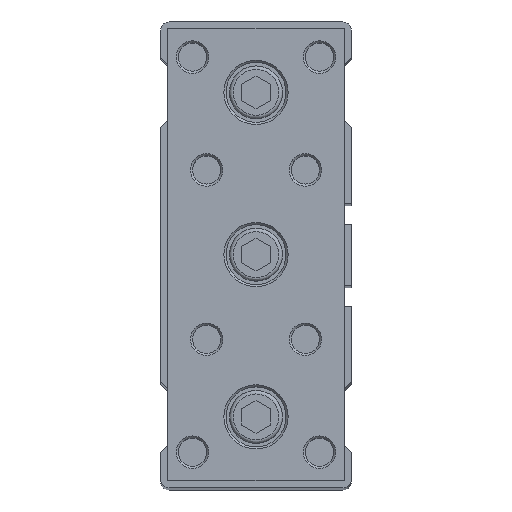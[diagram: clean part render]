
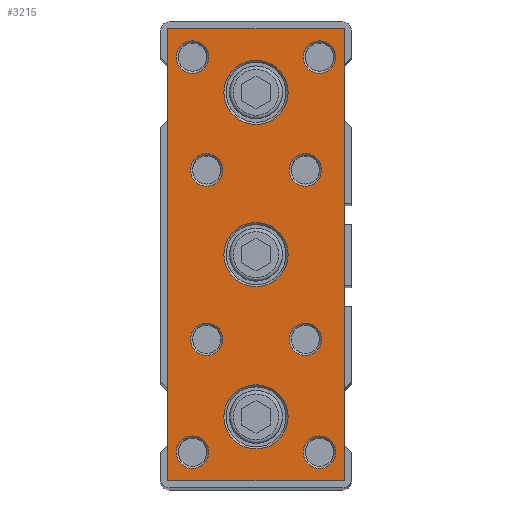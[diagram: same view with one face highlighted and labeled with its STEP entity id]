
A CAD part, top view. The second image highlights one B-rep face of the part: STEP entity #3215.
In plain terms, the highlighted planar face has unit normal (0, 0, 1).
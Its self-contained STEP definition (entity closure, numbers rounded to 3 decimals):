
#2858=CARTESIAN_POINT('',(12.5,32.0,12.));
#2859=VERTEX_POINT('',#2858);
#2860=CARTESIAN_POINT('',(12.5,-32.0,12.));
#2861=VERTEX_POINT('',#2860);
#2862=CARTESIAN_POINT('',(12.5,32.0,12.));
#2863=DIRECTION('',(0.0,-1.0,0.0));
#2864=VECTOR('',#2863,64.0);
#2865=LINE('',#2862,#2864);
#2866=EDGE_CURVE('',#2859,#2861,#2865,.T.);
#2992=CARTESIAN_POINT('',(-12.5,-32.0,12.));
#2993=VERTEX_POINT('',#2992);
#2994=CARTESIAN_POINT('',(-12.5,32.0,12.));
#2995=VERTEX_POINT('',#2994);
#2996=CARTESIAN_POINT('',(-12.5,-32.0,12.));
#2997=DIRECTION('',(0.0,1.0,0.0));
#2998=VECTOR('',#2997,64.0);
#2999=LINE('',#2996,#2998);
#3000=EDGE_CURVE('',#2993,#2995,#2999,.T.);
#3069=CARTESIAN_POINT('',(4.55,0.,12.));
#3070=VERTEX_POINT('',#3069);
#3071=CARTESIAN_POINT('',(0.0,0.0,12.));
#3072=DIRECTION('',(0.0,0.0,1.0));
#3073=DIRECTION('',(-1.0,0.0,0.0));
#3074=AXIS2_PLACEMENT_3D('',#3071,#3072,#3073);
#3075=CIRCLE('',#3074,4.55);
#3076=EDGE_CURVE('',#3070,#3070,#3075,.T.);
#3081=CARTESIAN_POINT('',(0.0,0.,12.));
#3082=DIRECTION('',(0.0,0.0,1.0));
#3083=DIRECTION('',(1.0,0.0,0.0));
#3084=AXIS2_PLACEMENT_3D('',#3081,#3082,#3083);
#3085=PLANE('',#3084);
#3086=ORIENTED_EDGE('',*,*,#2866,.F.);
#3087=CARTESIAN_POINT('',(-12.5,32.0,12.));
#3088=DIRECTION('',(1.0,0.0,0.0));
#3089=VECTOR('',#3088,25.0);
#3090=LINE('',#3087,#3089);
#3091=EDGE_CURVE('',#2995,#2859,#3090,.T.);
#3092=ORIENTED_EDGE('',*,*,#3091,.F.);
#3093=ORIENTED_EDGE('',*,*,#3000,.F.);
#3094=CARTESIAN_POINT('',(12.5,-32.0,12.));
#3095=DIRECTION('',(-1.0,0.0,0.0));
#3096=VECTOR('',#3095,25.0);
#3097=LINE('',#3094,#3096);
#3098=EDGE_CURVE('',#2861,#2993,#3097,.T.);
#3099=ORIENTED_EDGE('',*,*,#3098,.F.);
#3100=EDGE_LOOP('',(#3086,#3092,#3093,#3099));
#3101=FACE_OUTER_BOUND('',#3100,.T.);
#3102=CARTESIAN_POINT('',(4.55,-23.,12.));
#3103=VERTEX_POINT('',#3102);
#3104=CARTESIAN_POINT('',(0.0,-23.,12.));
#3105=DIRECTION('',(0.0,0.0,1.0));
#3106=DIRECTION('',(-1.0,0.0,0.0));
#3107=AXIS2_PLACEMENT_3D('',#3104,#3105,#3106);
#3108=CIRCLE('',#3107,4.55);
#3109=EDGE_CURVE('',#3103,#3103,#3108,.T.);
#3110=ORIENTED_EDGE('',*,*,#3109,.F.);
#3111=EDGE_LOOP('',(#3110));
#3112=FACE_BOUND('',#3111,.T.);
#3113=CARTESIAN_POINT('',(11.3,-28.,12.));
#3114=VERTEX_POINT('',#3113);
#3115=CARTESIAN_POINT('',(9.0,-28.,12.));
#3116=DIRECTION('',(0.0,0.0,1.0));
#3117=DIRECTION('',(-1.0,0.0,0.0));
#3118=AXIS2_PLACEMENT_3D('',#3115,#3116,#3117);
#3119=CIRCLE('',#3118,2.3);
#3120=EDGE_CURVE('',#3114,#3114,#3119,.T.);
#3121=ORIENTED_EDGE('',*,*,#3120,.F.);
#3122=EDGE_LOOP('',(#3121));
#3123=FACE_BOUND('',#3122,.T.);
#3124=CARTESIAN_POINT('',(11.3,28.,12.));
#3125=VERTEX_POINT('',#3124);
#3126=CARTESIAN_POINT('',(9.0,28.,12.));
#3127=DIRECTION('',(0.0,0.0,1.0));
#3128=DIRECTION('',(-1.0,0.0,0.0));
#3129=AXIS2_PLACEMENT_3D('',#3126,#3127,#3128);
#3130=CIRCLE('',#3129,2.3);
#3131=EDGE_CURVE('',#3125,#3125,#3130,.T.);
#3132=ORIENTED_EDGE('',*,*,#3131,.F.);
#3133=EDGE_LOOP('',(#3132));
#3134=FACE_BOUND('',#3133,.T.);
#3135=CARTESIAN_POINT('',(-6.7,-28.,12.));
#3136=VERTEX_POINT('',#3135);
#3137=CARTESIAN_POINT('',(-9.0,-28.,12.));
#3138=DIRECTION('',(0.0,0.0,1.0));
#3139=DIRECTION('',(-1.0,0.0,0.0));
#3140=AXIS2_PLACEMENT_3D('',#3137,#3138,#3139);
#3141=CIRCLE('',#3140,2.3);
#3142=EDGE_CURVE('',#3136,#3136,#3141,.T.);
#3143=ORIENTED_EDGE('',*,*,#3142,.F.);
#3144=EDGE_LOOP('',(#3143));
#3145=FACE_BOUND('',#3144,.T.);
#3146=CARTESIAN_POINT('',(-4.7,12.,12.));
#3147=VERTEX_POINT('',#3146);
#3148=CARTESIAN_POINT('',(-7.,12.,12.));
#3149=DIRECTION('',(0.0,0.0,1.0));
#3150=DIRECTION('',(-1.0,0.0,0.0));
#3151=AXIS2_PLACEMENT_3D('',#3148,#3149,#3150);
#3152=CIRCLE('',#3151,2.3);
#3153=EDGE_CURVE('',#3147,#3147,#3152,.T.);
#3154=ORIENTED_EDGE('',*,*,#3153,.F.);
#3155=EDGE_LOOP('',(#3154));
#3156=FACE_BOUND('',#3155,.T.);
#3157=CARTESIAN_POINT('',(-6.7,28.,12.));
#3158=VERTEX_POINT('',#3157);
#3159=CARTESIAN_POINT('',(-9.0,28.,12.));
#3160=DIRECTION('',(0.0,0.0,1.0));
#3161=DIRECTION('',(-1.0,0.0,0.0));
#3162=AXIS2_PLACEMENT_3D('',#3159,#3160,#3161);
#3163=CIRCLE('',#3162,2.3);
#3164=EDGE_CURVE('',#3158,#3158,#3163,.T.);
#3165=ORIENTED_EDGE('',*,*,#3164,.F.);
#3166=EDGE_LOOP('',(#3165));
#3167=FACE_BOUND('',#3166,.T.);
#3168=CARTESIAN_POINT('',(-4.7,-12.,12.));
#3169=VERTEX_POINT('',#3168);
#3170=CARTESIAN_POINT('',(-7.,-12.,12.));
#3171=DIRECTION('',(0.0,0.0,1.0));
#3172=DIRECTION('',(-1.0,0.0,0.0));
#3173=AXIS2_PLACEMENT_3D('',#3170,#3171,#3172);
#3174=CIRCLE('',#3173,2.3);
#3175=EDGE_CURVE('',#3169,#3169,#3174,.T.);
#3176=ORIENTED_EDGE('',*,*,#3175,.F.);
#3177=EDGE_LOOP('',(#3176));
#3178=FACE_BOUND('',#3177,.T.);
#3179=CARTESIAN_POINT('',(9.3,-12.,12.));
#3180=VERTEX_POINT('',#3179);
#3181=CARTESIAN_POINT('',(7.,-12.,12.));
#3182=DIRECTION('',(0.0,0.0,1.0));
#3183=DIRECTION('',(-1.0,0.0,0.0));
#3184=AXIS2_PLACEMENT_3D('',#3181,#3182,#3183);
#3185=CIRCLE('',#3184,2.3);
#3186=EDGE_CURVE('',#3180,#3180,#3185,.T.);
#3187=ORIENTED_EDGE('',*,*,#3186,.F.);
#3188=EDGE_LOOP('',(#3187));
#3189=FACE_BOUND('',#3188,.T.);
#3190=CARTESIAN_POINT('',(9.3,12.,12.));
#3191=VERTEX_POINT('',#3190);
#3192=CARTESIAN_POINT('',(7.,12.,12.));
#3193=DIRECTION('',(0.0,0.0,1.0));
#3194=DIRECTION('',(-1.0,0.0,0.0));
#3195=AXIS2_PLACEMENT_3D('',#3192,#3193,#3194);
#3196=CIRCLE('',#3195,2.3);
#3197=EDGE_CURVE('',#3191,#3191,#3196,.T.);
#3198=ORIENTED_EDGE('',*,*,#3197,.F.);
#3199=EDGE_LOOP('',(#3198));
#3200=FACE_BOUND('',#3199,.T.);
#3201=CARTESIAN_POINT('',(4.55,23.,12.));
#3202=VERTEX_POINT('',#3201);
#3203=CARTESIAN_POINT('',(0.0,23.,12.));
#3204=DIRECTION('',(0.0,0.0,1.0));
#3205=DIRECTION('',(-1.0,0.0,0.0));
#3206=AXIS2_PLACEMENT_3D('',#3203,#3204,#3205);
#3207=CIRCLE('',#3206,4.55);
#3208=EDGE_CURVE('',#3202,#3202,#3207,.T.);
#3209=ORIENTED_EDGE('',*,*,#3208,.F.);
#3210=EDGE_LOOP('',(#3209));
#3211=FACE_BOUND('',#3210,.T.);
#3212=ORIENTED_EDGE('',*,*,#3076,.F.);
#3213=EDGE_LOOP('',(#3212));
#3214=FACE_BOUND('',#3213,.T.);
#3215=ADVANCED_FACE('',(#3101,#3112,#3123,#3134,#3145,#3156,#3167,#3178,#3189,#3200,#3211,#3214),#3085,.T.);
